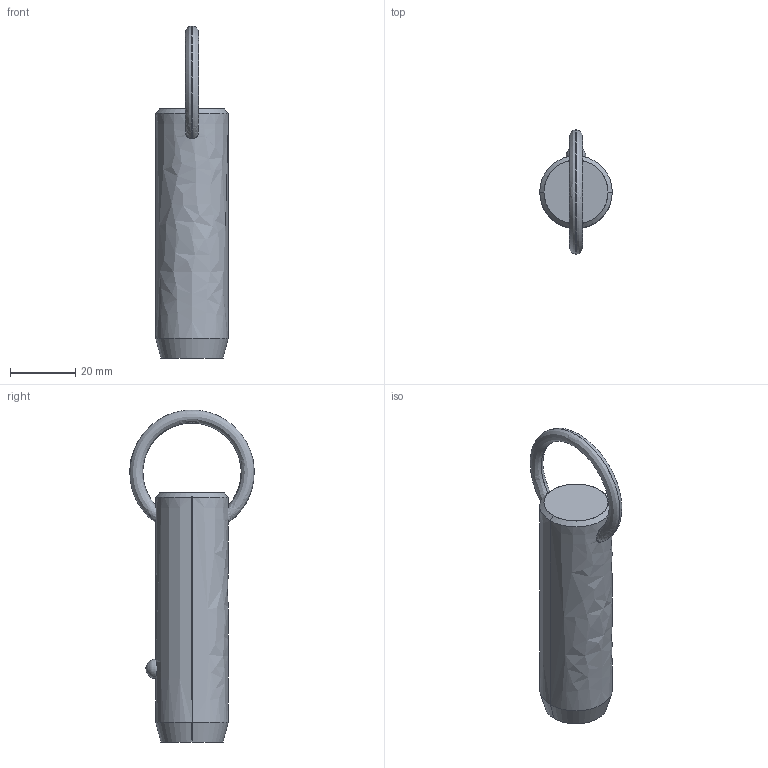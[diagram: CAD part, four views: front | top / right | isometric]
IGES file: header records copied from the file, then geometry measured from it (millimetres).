
Start section: SolidWorks IGES file using analytic representation for surfaces
Global section: file name: C:\Users\liam_\OneDrive\Documents\WORK\Work for WixRoyd\Job Files\J-00019 - Matt Davis CAD Checking\04. CAD Drawings\automotion20190605\P1250.2_v2\P1250.2_v2_20190729_IGES\P1250.087-150.igs; native system: SolidWorks 2017; preprocessor: SolidWorks 2017; author: liam_; date: 190730.000510; units: millimetre
Bounding box: 22.2 x 38.07 x 101.6 mm (x, y, z)
Surface area: 6958.2 mm2 (no closed solid volume)
Topology: 0 solids, 0 shells, 12 faces, 302 edges, 300 vertices
Faces by surface type: revolution 8, bspline 4
